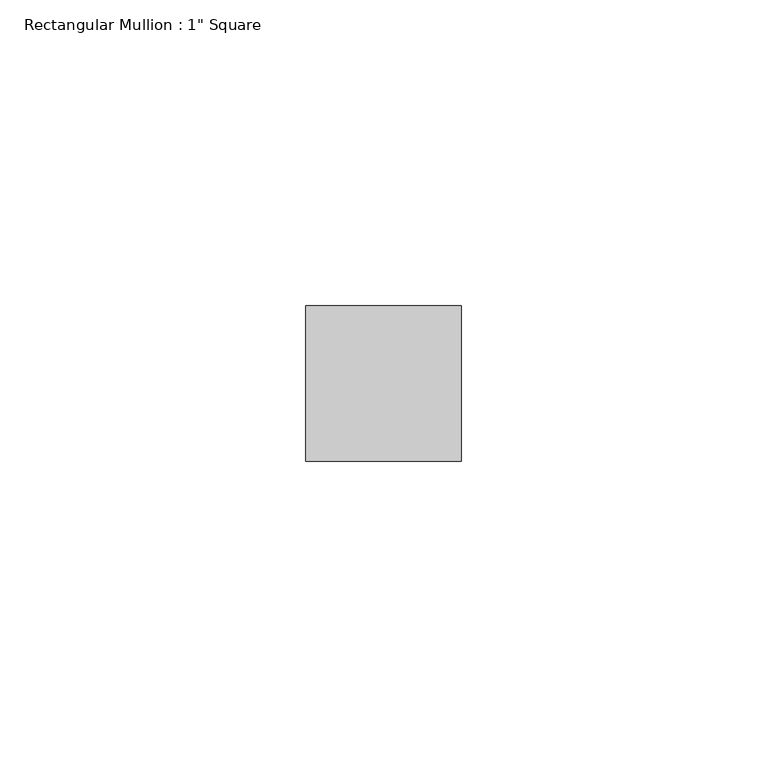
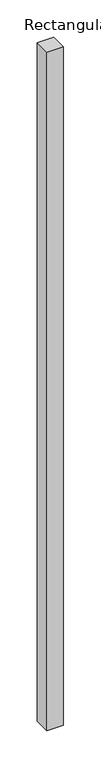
"""IFC4 building model written with IfcOpenShell, lengths in millimetres: member geometry."""

from ifc_helpers import new_model, si_unit, frame, origin, place, context, project, spatial, polyline, outline, extrude, source, transform, mapped, element, save


def member_19e455aa(model_context):
    return source(origin(), model_context, "Body", "SweptSolid", [
        extrude(outline(polyline([(12.7, 12.7), (12.7, -12.7), (-12.7, -12.7), (-12.7, 12.7), (12.7, 12.7)])), frame((0.0, 0.0, -1106.3377805), z_axis=(0.0, 0.0, 1.0), x_axis=(1.0, 0.0, 0.0)), (0.0, 0.0, 1.0), 1106.3377805),
    ])


if __name__ == "__main__":
    model = new_model("IFC4")
    model_context = context("Model", 3, world=origin())
    ifc_project = project(units=[si_unit("LENGTHUNIT", "METRE", prefix="MILLI")], contexts=[model_context])
    site = spatial("IfcSite", under=ifc_project)
    building = spatial("IfcBuilding", under=site)
    placement = place(None, origin())
    member_shape = member_19e455aa(model_context)
    element("IfcMember", 1, ObjectType="Rectangular Mullion : 1\" Square", at=placement, inside=building, context=model_context, shape_type="MappedRepresentation", body=[
        mapped(member_shape, transform((0.0, 0.0, 0.0), x_axis=(1.0, 0.0, 0.0), y_axis=(0.0, 1.0, 0.0), z_axis=(0.0, 0.0, 1.0))),
    ])
    save(model, "model.ifc")
